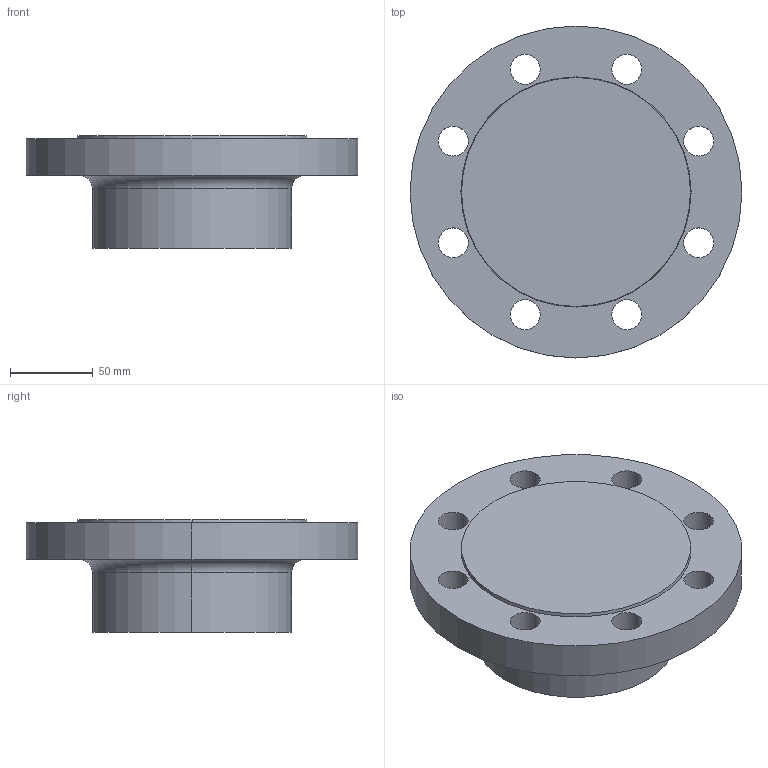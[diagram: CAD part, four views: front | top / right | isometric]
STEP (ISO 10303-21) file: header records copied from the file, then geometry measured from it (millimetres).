
FILE_DESCRIPTION (( 'STEP AP214' ), '1' );
FILE_NAME ('PN40 DN80 Type 21(i) - Type B Face.STEP', '2019-01-01T19:36:09', ( '' ), ( '' ), 'SwSTEP 2.0', 'SolidWorks 2019', '' );
FILE_SCHEMA (( 'AUTOMOTIVE_DESIGN' ));
Length unit declared in the file: millimetre
Products named in the file (1): PN40 DN80 Type 21(i) - Type B Face
Bounding box: 200 x 200 x 68 mm (x, y, z)
Volume: 1179391.5 mm3; surface area: 98587 mm2
Topology: 1 solids, 1 shells, 28 faces, 70 edges, 46 vertices
Faces by surface type: cylinder 20, plane 4, torus 2, cone 2
Entity records: 932 total; most frequent: DIRECTION 176, CARTESIAN_POINT 145, ORIENTED_EDGE 140, AXIS2_PLACEMENT_3D 77, EDGE_CURVE 70, CIRCLE 48, VERTEX_POINT 46, EDGE_LOOP 46
